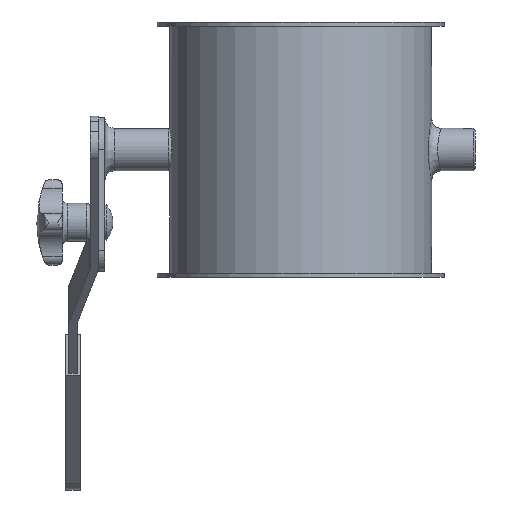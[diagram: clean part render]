
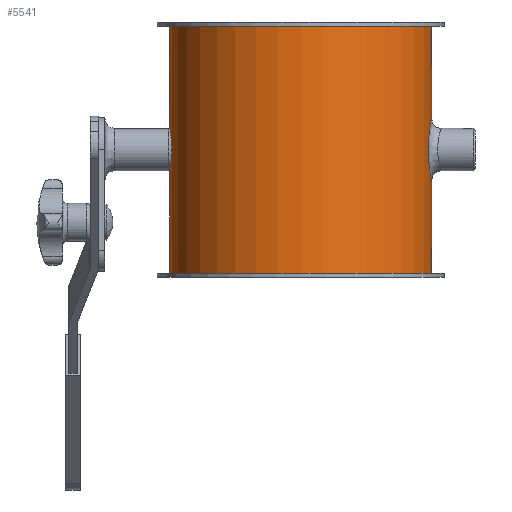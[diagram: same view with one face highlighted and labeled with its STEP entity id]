
A CAD part, front view. The second image highlights one B-rep face of the part: STEP entity #5541.
In plain terms, the highlighted cylindrical face has radius 61.5 mm (diameter 123 mm), a full revolution.
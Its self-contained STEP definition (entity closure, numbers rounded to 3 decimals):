
#5431=CARTESIAN_POINT('',(59.997,13.511,60.0));
#5432=VERTEX_POINT('',#5431);
#5442=CARTESIAN_POINT('',(59.997,13.512,60.));
#5443=CARTESIAN_POINT('',(59.997,13.512,60.001));
#5444=CARTESIAN_POINT('',(59.997,13.512,60.001));
#5445=CARTESIAN_POINT('',(59.997,13.512,60.002));
#5446=CARTESIAN_POINT('',(59.997,13.512,62.166));
#5447=CARTESIAN_POINT('',(60.215,12.591,66.493));
#5448=CARTESIAN_POINT('',(60.944,8.729,71.707));
#5449=CARTESIAN_POINT('',(61.423,4.082,74.123));
#5450=CARTESIAN_POINT('',(61.525,0.016,74.622));
#5451=CARTESIAN_POINT('',(61.425,-4.038,74.138));
#5452=CARTESIAN_POINT('',(60.95,-8.702,71.726));
#5453=CARTESIAN_POINT('',(60.132,-13.009,65.959));
#5454=CARTESIAN_POINT('',(59.912,-13.875,59.972));
#5455=CARTESIAN_POINT('',(60.121,-12.957,55.704));
#5456=CARTESIAN_POINT('',(60.431,-11.486,51.657));
#5457=CARTESIAN_POINT('',(61.043,-8.143,47.8));
#5458=CARTESIAN_POINT('',(61.522,-2.435,45.384));
#5459=CARTESIAN_POINT('',(61.523,3.116,45.378));
#5460=CARTESIAN_POINT('',(60.945,8.714,48.286));
#5461=CARTESIAN_POINT('',(60.218,12.58,53.47));
#5462=CARTESIAN_POINT('',(59.997,13.512,57.836));
#5463=CARTESIAN_POINT('',(59.997,13.512,60.));
#5464=B_SPLINE_CURVE_WITH_KNOTS('',3,(#5442,#5443,#5444,#5445,#5446,#5447,#5448,#5449,#5450,#5451,#5452,#5453,#5454,#5455,#5456,#5457,#5458,#5459,#5460,#5461,#5462,#5463),.UNSPECIFIED.,.T.,.U.,(4,3,1,1,1,1,1,1,1,1,1,1,1,1,1,1,1,4),(-6.039,-6.039,-5.607,-5.176,-4.745,-4.529,-4.313,-3.882,-3.451,-2.875,-2.732,-2.588,-2.013,-1.725,-1.294,-0.863,-0.431,0.),.UNSPECIFIED.);
#5465=EDGE_CURVE('',#5432,#5432,#5464,.T.);
#5470=CARTESIAN_POINT('',(0.0,0.0,0.0));
#5471=DIRECTION('',(0.0,0.0,1.0));
#5472=DIRECTION('',(-1.0,0.0,0.0));
#5473=AXIS2_PLACEMENT_3D('',#5470,#5471,#5472);
#5474=CYLINDRICAL_SURFACE('',#5473,61.5);
#5475=CARTESIAN_POINT('',(61.5,0.,118.0));
#5476=VERTEX_POINT('',#5475);
#5477=CARTESIAN_POINT('',(0.0,0.0,118.0));
#5478=DIRECTION('',(0.0,0.0,-1.0));
#5479=DIRECTION('',(-1.0,0.0,0.0));
#5480=AXIS2_PLACEMENT_3D('',#5477,#5478,#5479);
#5481=CIRCLE('',#5480,61.5);
#5482=EDGE_CURVE('',#5476,#5476,#5481,.T.);
#5483=ORIENTED_EDGE('',*,*,#5482,.T.);
#5484=EDGE_LOOP('',(#5483));
#5485=FACE_OUTER_BOUND('',#5484,.T.);
#5486=CARTESIAN_POINT('',(-61.5,0.,2.0));
#5487=VERTEX_POINT('',#5486);
#5488=CARTESIAN_POINT('',(0.0,0.0,2.0));
#5489=DIRECTION('',(0.0,0.0,1.0));
#5490=DIRECTION('',(-1.0,0.0,0.0));
#5491=AXIS2_PLACEMENT_3D('',#5488,#5489,#5490);
#5492=CIRCLE('',#5491,61.5);
#5493=EDGE_CURVE('',#5487,#5487,#5492,.T.);
#5494=ORIENTED_EDGE('',*,*,#5493,.T.);
#5495=EDGE_LOOP('',(#5494));
#5496=FACE_BOUND('',#5495,.T.);
#5497=CARTESIAN_POINT('',(-60.682,10.,60.));
#5498=VERTEX_POINT('',#5497);
#5499=CARTESIAN_POINT('',(-60.682,10.,60.));
#5500=CARTESIAN_POINT('',(-60.682,10.,61.258));
#5501=CARTESIAN_POINT('',(-60.725,9.748,62.598));
#5502=CARTESIAN_POINT('',(-60.88,8.727,65.061));
#5503=CARTESIAN_POINT('',(-60.99,7.958,66.184));
#5504=CARTESIAN_POINT('',(-61.195,6.184,67.958));
#5505=CARTESIAN_POINT('',(-61.304,5.062,68.727));
#5506=CARTESIAN_POINT('',(-61.457,2.598,69.748));
#5507=CARTESIAN_POINT('',(-61.5,1.258,70.0));
#5508=CARTESIAN_POINT('',(-61.5,-1.258,70.0));
#5509=CARTESIAN_POINT('',(-61.457,-2.598,69.748));
#5510=CARTESIAN_POINT('',(-61.304,-5.062,68.727));
#5511=CARTESIAN_POINT('',(-61.195,-6.184,67.958));
#5512=CARTESIAN_POINT('',(-60.99,-7.958,66.184));
#5513=CARTESIAN_POINT('',(-60.88,-8.727,65.061));
#5514=CARTESIAN_POINT('',(-60.725,-9.748,62.598));
#5515=CARTESIAN_POINT('',(-60.682,-10.0,61.258));
#5516=CARTESIAN_POINT('',(-60.682,-10.0,58.742));
#5517=CARTESIAN_POINT('',(-60.725,-9.748,57.402));
#5518=CARTESIAN_POINT('',(-60.88,-8.727,54.939));
#5519=CARTESIAN_POINT('',(-60.99,-7.958,53.816));
#5520=CARTESIAN_POINT('',(-61.195,-6.184,52.042));
#5521=CARTESIAN_POINT('',(-61.304,-5.062,51.273));
#5522=CARTESIAN_POINT('',(-61.457,-2.598,50.252));
#5523=CARTESIAN_POINT('',(-61.5,-1.258,50.0));
#5524=CARTESIAN_POINT('',(-61.5,1.258,50.0));
#5525=CARTESIAN_POINT('',(-61.457,2.598,50.252));
#5526=CARTESIAN_POINT('',(-61.304,5.062,51.273));
#5527=CARTESIAN_POINT('',(-61.195,6.184,52.042));
#5528=CARTESIAN_POINT('',(-60.99,7.958,53.816));
#5529=CARTESIAN_POINT('',(-60.88,8.727,54.939));
#5530=CARTESIAN_POINT('',(-60.725,9.748,57.402));
#5531=CARTESIAN_POINT('',(-60.682,10.,58.742));
#5532=CARTESIAN_POINT('',(-60.682,10.,60.));
#5533=B_SPLINE_CURVE_WITH_KNOTS('',3,(#5499,#5500,#5501,#5502,#5503,#5504,#5505,#5506,#5507,#5508,#5509,#5510,#5511,#5512,#5513,#5514,#5515,#5516,#5517,#5518,#5519,#5520,#5521,#5522,#5523,#5524,#5525,#5526,#5527,#5528,#5529,#5530,#5531,#5532),.UNSPECIFIED.,.T.,.U.,(4,2,2,2,2,2,2,2,2,2,2,2,2,2,2,2,4),(0.0,0.377,0.755,1.132,1.51,1.887,2.264,2.642,3.019,3.397,3.774,4.151,4.529,4.906,5.284,5.661,6.039),.UNSPECIFIED.);
#5534=EDGE_CURVE('',#5498,#5498,#5533,.T.);
#5535=ORIENTED_EDGE('',*,*,#5534,.T.);
#5536=EDGE_LOOP('',(#5535));
#5537=FACE_BOUND('',#5536,.T.);
#5538=ORIENTED_EDGE('',*,*,#5465,.F.);
#5539=EDGE_LOOP('',(#5538));
#5540=FACE_BOUND('',#5539,.T.);
#5541=ADVANCED_FACE('',(#5485,#5496,#5537,#5540),#5474,.T.);
